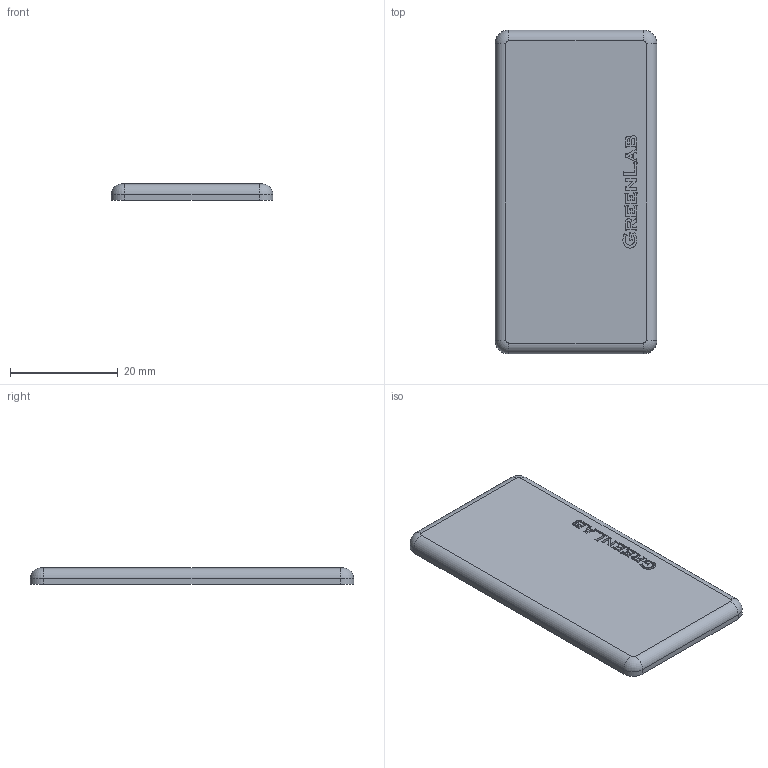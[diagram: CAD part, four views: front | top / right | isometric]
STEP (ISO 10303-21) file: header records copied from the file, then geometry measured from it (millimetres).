
FILE_DESCRIPTION (( 'STEP AP214' ), '1' );
FILE_NAME ('1.1072 Päätysuoja 30X60 musta.STEP', '2025-09-03T08:54:15', ( '' ), ( '' ), 'SwSTEP 2.0', 'SolidWorks 2025', '' );
FILE_SCHEMA (( 'AUTOMOTIVE_DESIGN' ));
Length unit declared in the file: millimetre
Products named in the file (1): 1.1072 Päätysuoja 30X60 musta
Bounding box: 30 x 60 x 3 mm (x, y, z)
Volume: 5224.7 mm3; surface area: 4017.5 mm2
Topology: 1 solids, 1 shells, 240 faces, 670 edges, 444 vertices
Faces by surface type: plane 143, bspline 85, cylinder 8, torus 4
Entity records: 10295 total; most frequent: CARTESIAN_POINT 4672, ORIENTED_EDGE 1340, DIRECTION 832, EDGE_CURVE 670, VECTOR 480, LINE 480, VERTEX_POINT 444, EDGE_LOOP 252
